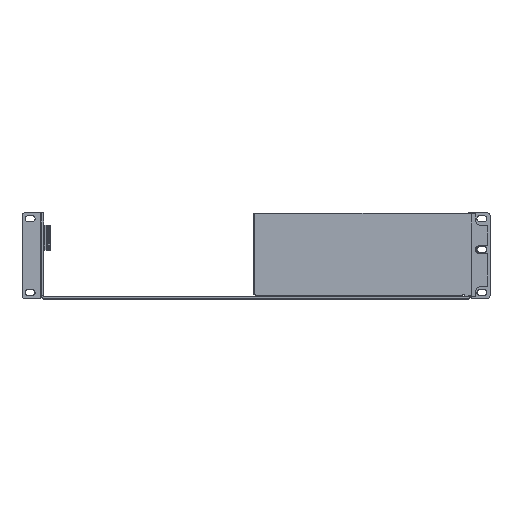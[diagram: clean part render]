
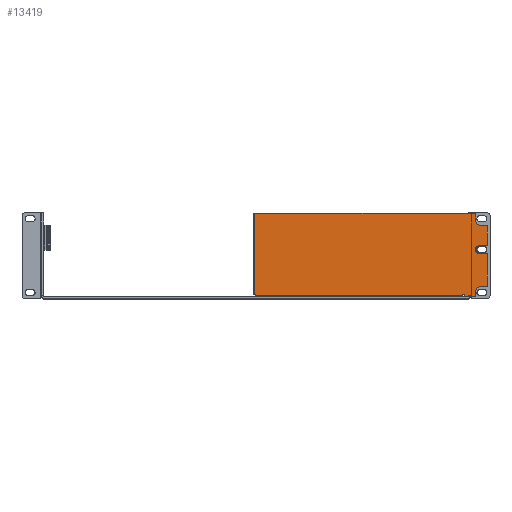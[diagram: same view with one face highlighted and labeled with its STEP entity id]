
A CAD part, top view. The second image highlights one B-rep face of the part: STEP entity #13419.
In plain terms, the highlighted planar face has unit normal (0, 0, 1).
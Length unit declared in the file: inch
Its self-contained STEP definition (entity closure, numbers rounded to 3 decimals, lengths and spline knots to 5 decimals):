
#12614=CARTESIAN_POINT('',(4.213,0.062,0.));
#12615=DIRECTION('',(0.,0.,1.));
#12616=DIRECTION('',(0.,-1.,0.));
#12617=AXIS2_PLACEMENT_3D('',#12614,#12615,#12616);
#12619=DIRECTION('',(1.,0.,0.));
#12620=VECTOR('',#12619,0.378);
#12621=CARTESIAN_POINT('',(3.835,0.,0.));
#12622=LINE('',#12621,#12620);
#12623=DIRECTION('',(0.,1.,0.));
#12624=VECTOR('',#12623,0.085);
#12625=CARTESIAN_POINT('',(3.835,0.,0.));
#12626=LINE('',#12625,#12624);
#12627=DIRECTION('',(-1.,0.,0.));
#12628=VECTOR('',#12627,0.085);
#12629=CARTESIAN_POINT('',(3.835,0.085,0.));
#12630=LINE('',#12629,#12628);
#12631=DIRECTION('',(0.,1.,0.));
#12632=VECTOR('',#12631,0.036);
#12633=CARTESIAN_POINT('',(3.75,0.049,0.));
#12634=LINE('',#12633,#12632);
#12635=DIRECTION('',(0.,1.,0.));
#12636=VECTOR('',#12635,0.036);
#12637=CARTESIAN_POINT('',(-4.665,0.049,0.));
#12638=LINE('',#12637,#12636);
#12639=DIRECTION('',(1.,0.,0.));
#12640=VECTOR('',#12639,0.036);
#12641=CARTESIAN_POINT('',(-4.701,0.085,0.));
#12642=LINE('',#12641,#12640);
#12643=DIRECTION('',(-1.,0.,0.));
#12644=VECTOR('',#12643,8.914);
#12645=CARTESIAN_POINT('',(4.213,3.389,0.));
#12646=LINE('',#12645,#12644);
#12647=CARTESIAN_POINT('',(4.213,3.327,0.));
#12648=DIRECTION('',(0.,0.,1.));
#12649=DIRECTION('',(1.,0.,0.));
#12650=AXIS2_PLACEMENT_3D('',#12647,#12648,#12649);
#12652=DIRECTION('',(0.,-1.,0.));
#12653=VECTOR('',#12652,0.238);
#12654=CARTESIAN_POINT('',(4.275,3.327,0.));
#12655=LINE('',#12654,#12653);
#12656=DIRECTION('',(-1.,0.,0.));
#12657=VECTOR('',#12656,0.213);
#12658=CARTESIAN_POINT('',(4.688,2.889,0.));
#12659=LINE('',#12658,#12657);
#12660=CARTESIAN_POINT('',(4.688,2.827,0.));
#12661=DIRECTION('',(0.,0.,1.));
#12662=DIRECTION('',(1.,0.,0.));
#12663=AXIS2_PLACEMENT_3D('',#12660,#12661,#12662);
#12665=DIRECTION('',(0.,1.,0.));
#12666=VECTOR('',#12665,0.711);
#12667=CARTESIAN_POINT('',(4.75,2.116,0.));
#12668=LINE('',#12667,#12666);
#12669=CARTESIAN_POINT('',(4.688,2.116,0.));
#12670=DIRECTION('',(0.,0.,1.));
#12671=DIRECTION('',(0.,-1.,0.));
#12672=AXIS2_PLACEMENT_3D('',#12669,#12670,#12671);
#12674=DIRECTION('',(-1.,0.,0.));
#12675=VECTOR('',#12674,0.288);
#12676=CARTESIAN_POINT('',(4.688,2.054,0.));
#12677=LINE('',#12676,#12675);
#12678=CARTESIAN_POINT('',(4.4,1.904,0.));
#12679=DIRECTION('',(0.,0.,1.));
#12680=DIRECTION('',(0.,1.,0.));
#12681=AXIS2_PLACEMENT_3D('',#12678,#12679,#12680);
#12683=DIRECTION('',(-1.,0.,0.));
#12684=VECTOR('',#12683,0.288);
#12685=CARTESIAN_POINT('',(4.688,1.754,0.));
#12686=LINE('',#12685,#12684);
#12687=CARTESIAN_POINT('',(4.688,1.692,0.));
#12688=DIRECTION('',(0.,0.,1.));
#12689=DIRECTION('',(1.,0.,0.));
#12690=AXIS2_PLACEMENT_3D('',#12687,#12688,#12689);
#12692=DIRECTION('',(0.,1.,0.));
#12693=VECTOR('',#12692,1.23);
#12694=CARTESIAN_POINT('',(4.75,0.462,0.));
#12695=LINE('',#12694,#12693);
#12696=CARTESIAN_POINT('',(4.688,0.462,0.));
#12697=DIRECTION('',(0.,0.,1.));
#12698=DIRECTION('',(0.,-1.,0.));
#12699=AXIS2_PLACEMENT_3D('',#12696,#12697,#12698);
#12701=DIRECTION('',(-1.,0.,0.));
#12702=VECTOR('',#12701,0.213);
#12703=CARTESIAN_POINT('',(4.688,0.4,0.));
#12704=LINE('',#12703,#12702);
#12705=DIRECTION('',(0.,1.,0.));
#12706=VECTOR('',#12705,0.138);
#12707=CARTESIAN_POINT('',(4.275,0.062,0.));
#12708=LINE('',#12707,#12706);
#12717=CARTESIAN_POINT('',(4.475,0.2,0.));
#12718=DIRECTION('',(0.,0.,-1.));
#12719=DIRECTION('',(-1.,0.,0.));
#12720=AXIS2_PLACEMENT_3D('',#12717,#12718,#12719);
#12775=CARTESIAN_POINT('',(4.475,3.089,0.));
#12776=DIRECTION('',(0.,0.,-1.));
#12777=DIRECTION('',(0.,-1.,0.));
#12778=AXIS2_PLACEMENT_3D('',#12775,#12776,#12777);
#12814=DIRECTION('',(0.,1.,0.));
#12815=VECTOR('',#12814,3.304);
#12816=CARTESIAN_POINT('',(-4.701,0.085,0.));
#12817=LINE('',#12816,#12815);
#12878=DIRECTION('',(-1.,0.,0.));
#12879=VECTOR('',#12878,8.415);
#12880=CARTESIAN_POINT('',(3.75,0.049,0.));
#12881=LINE('',#12880,#12879);
#13192=CARTESIAN_POINT('',(3.835,0.085,0.));
#13193=CARTESIAN_POINT('',(3.75,0.085,0.));
#13194=VERTEX_POINT('',#13192);
#13195=VERTEX_POINT('',#13193);
#13200=CARTESIAN_POINT('',(-4.665,0.085,0.));
#13202=VERTEX_POINT('',#13200);
#13208=CARTESIAN_POINT('',(-4.701,3.389,0.));
#13209=VERTEX_POINT('',#13208);
#13210=CARTESIAN_POINT('',(-4.701,0.085,0.));
#13211=VERTEX_POINT('',#13210);
#13224=CARTESIAN_POINT('',(-4.665,0.049,0.));
#13225=VERTEX_POINT('',#13224);
#13226=CARTESIAN_POINT('',(3.75,0.049,0.));
#13227=VERTEX_POINT('',#13226);
#13236=CARTESIAN_POINT('',(4.4,2.054,0.));
#13237=CARTESIAN_POINT('',(4.4,1.754,0.));
#13238=VERTEX_POINT('',#13236);
#13239=VERTEX_POINT('',#13237);
#13244=CARTESIAN_POINT('',(3.835,0.,0.));
#13245=VERTEX_POINT('',#13244);
#13248=CARTESIAN_POINT('',(4.475,2.889,0.));
#13250=VERTEX_POINT('',#13248);
#13252=CARTESIAN_POINT('',(4.275,3.089,0.));
#13254=VERTEX_POINT('',#13252);
#13256=CARTESIAN_POINT('',(4.275,0.2,0.));
#13258=VERTEX_POINT('',#13256);
#13260=CARTESIAN_POINT('',(4.475,0.4,0.));
#13262=VERTEX_POINT('',#13260);
#13312=CARTESIAN_POINT('',(4.213,0.,0.));
#13313=CARTESIAN_POINT('',(4.275,0.062,0.));
#13314=VERTEX_POINT('',#13312);
#13315=VERTEX_POINT('',#13313);
#13320=CARTESIAN_POINT('',(4.688,0.4,0.));
#13321=CARTESIAN_POINT('',(4.75,0.462,0.));
#13322=VERTEX_POINT('',#13320);
#13323=VERTEX_POINT('',#13321);
#13328=CARTESIAN_POINT('',(4.75,1.692,0.));
#13329=CARTESIAN_POINT('',(4.688,1.754,0.));
#13330=VERTEX_POINT('',#13328);
#13331=VERTEX_POINT('',#13329);
#13336=CARTESIAN_POINT('',(4.688,2.054,0.));
#13337=CARTESIAN_POINT('',(4.75,2.116,0.));
#13338=VERTEX_POINT('',#13336);
#13339=VERTEX_POINT('',#13337);
#13344=CARTESIAN_POINT('',(4.75,2.827,0.));
#13345=CARTESIAN_POINT('',(4.688,2.889,0.));
#13346=VERTEX_POINT('',#13344);
#13347=VERTEX_POINT('',#13345);
#13352=CARTESIAN_POINT('',(4.275,3.327,0.));
#13353=CARTESIAN_POINT('',(4.213,3.389,0.));
#13354=VERTEX_POINT('',#13352);
#13355=VERTEX_POINT('',#13353);
#13360=CARTESIAN_POINT('',(0.,0.,0.));
#13361=DIRECTION('',(0.,0.,1.));
#13362=DIRECTION('',(1.,0.,0.));
#13363=AXIS2_PLACEMENT_3D('',#13360,#13361,#13362);
#13364=PLANE('',#13363);
#13366=ORIENTED_EDGE('',*,*,#13365,.F.);
#13368=ORIENTED_EDGE('',*,*,#13367,.F.);
#13370=ORIENTED_EDGE('',*,*,#13369,.T.);
#13372=ORIENTED_EDGE('',*,*,#13371,.T.);
#13374=ORIENTED_EDGE('',*,*,#13373,.F.);
#13376=ORIENTED_EDGE('',*,*,#13375,.T.);
#13378=ORIENTED_EDGE('',*,*,#13377,.T.);
#13380=ORIENTED_EDGE('',*,*,#13379,.F.);
#13382=ORIENTED_EDGE('',*,*,#13381,.T.);
#13384=ORIENTED_EDGE('',*,*,#13383,.F.);
#13386=ORIENTED_EDGE('',*,*,#13385,.F.);
#13388=ORIENTED_EDGE('',*,*,#13387,.T.);
#13390=ORIENTED_EDGE('',*,*,#13389,.F.);
#13392=ORIENTED_EDGE('',*,*,#13391,.F.);
#13394=ORIENTED_EDGE('',*,*,#13393,.F.);
#13396=ORIENTED_EDGE('',*,*,#13395,.F.);
#13398=ORIENTED_EDGE('',*,*,#13397,.F.);
#13400=ORIENTED_EDGE('',*,*,#13399,.T.);
#13402=ORIENTED_EDGE('',*,*,#13401,.T.);
#13404=ORIENTED_EDGE('',*,*,#13403,.F.);
#13406=ORIENTED_EDGE('',*,*,#13405,.F.);
#13408=ORIENTED_EDGE('',*,*,#13407,.F.);
#13410=ORIENTED_EDGE('',*,*,#13409,.F.);
#13412=ORIENTED_EDGE('',*,*,#13411,.T.);
#13414=ORIENTED_EDGE('',*,*,#13413,.F.);
#13416=ORIENTED_EDGE('',*,*,#13415,.F.);
#13417=EDGE_LOOP('',(#13366,#13368,#13370,#13372,#13374,#13376,#13378,#13380,
#13382,#13384,#13386,#13388,#13390,#13392,#13394,#13396,#13398,#13400,#13402,
#13404,#13406,#13408,#13410,#13412,#13414,#13416));
#13418=FACE_OUTER_BOUND('',#13417,.F.);
#13419=ADVANCED_FACE('',(#13418),#13364,.T.);
#12618=CIRCLE('',#12617,0.062);
#12651=CIRCLE('',#12650,0.062);
#12664=CIRCLE('',#12663,0.062);
#12673=CIRCLE('',#12672,0.062);
#12682=CIRCLE('',#12681,0.15);
#12691=CIRCLE('',#12690,0.062);
#12700=CIRCLE('',#12699,0.062);
#12721=CIRCLE('',#12720,0.2);
#12779=CIRCLE('',#12778,0.2);
#13365=EDGE_CURVE('',#13314,#13315,#12618,.T.);
#13367=EDGE_CURVE('',#13245,#13314,#12622,.T.);
#13369=EDGE_CURVE('',#13245,#13194,#12626,.T.);
#13371=EDGE_CURVE('',#13194,#13195,#12630,.T.);
#13373=EDGE_CURVE('',#13227,#13195,#12634,.T.);
#13375=EDGE_CURVE('',#13227,#13225,#12881,.T.);
#13377=EDGE_CURVE('',#13225,#13202,#12638,.T.);
#13379=EDGE_CURVE('',#13211,#13202,#12642,.T.);
#13381=EDGE_CURVE('',#13211,#13209,#12817,.T.);
#13383=EDGE_CURVE('',#13355,#13209,#12646,.T.);
#13385=EDGE_CURVE('',#13354,#13355,#12651,.T.);
#13387=EDGE_CURVE('',#13354,#13254,#12655,.T.);
#13389=EDGE_CURVE('',#13250,#13254,#12779,.T.);
#13391=EDGE_CURVE('',#13347,#13250,#12659,.T.);
#13393=EDGE_CURVE('',#13346,#13347,#12664,.T.);
#13395=EDGE_CURVE('',#13339,#13346,#12668,.T.);
#13397=EDGE_CURVE('',#13338,#13339,#12673,.T.);
#13399=EDGE_CURVE('',#13338,#13238,#12677,.T.);
#13401=EDGE_CURVE('',#13238,#13239,#12682,.T.);
#13403=EDGE_CURVE('',#13331,#13239,#12686,.T.);
#13405=EDGE_CURVE('',#13330,#13331,#12691,.T.);
#13407=EDGE_CURVE('',#13323,#13330,#12695,.T.);
#13409=EDGE_CURVE('',#13322,#13323,#12700,.T.);
#13411=EDGE_CURVE('',#13322,#13262,#12704,.T.);
#13413=EDGE_CURVE('',#13258,#13262,#12721,.T.);
#13415=EDGE_CURVE('',#13315,#13258,#12708,.T.);
